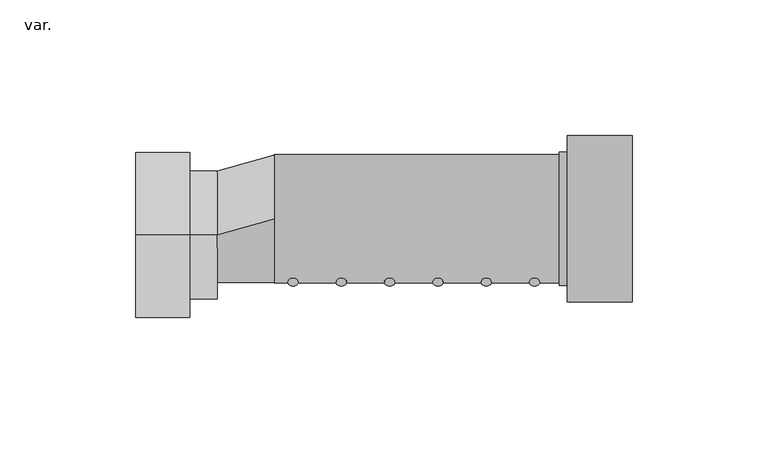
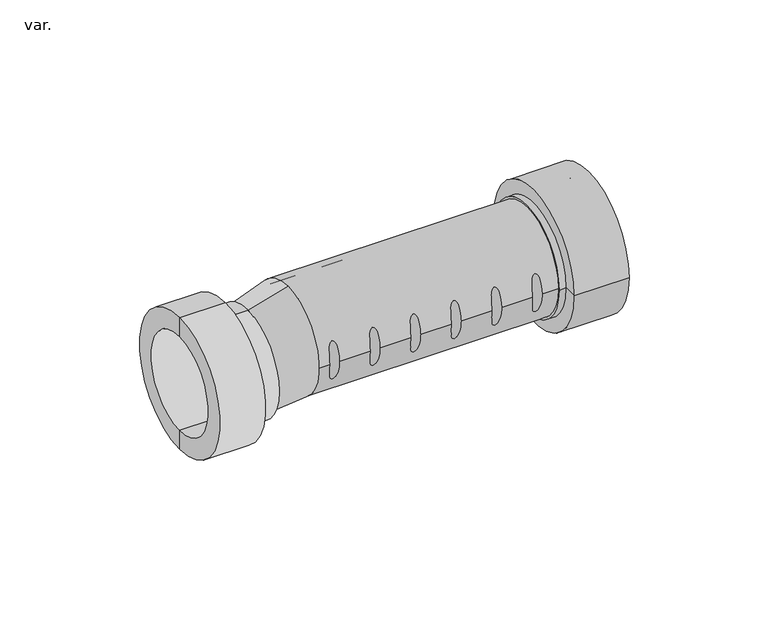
"""IFC4 building model written with IfcOpenShell, lengths in millimetres: pipe fitting geometry, AmancoWavin_Unionesdetubería_HepVoPPZNoUsarValvulaautosellantePP : var.."""

from ifc_helpers import new_model, si_unit, point, frame, origin, place, context, project, spatial, polyline, circle_curve, ellipse_curve, trimmed, source, transform, mapped, element, save
from ifc_brep_helpers import plane_surface, cylinder_surface, revolved_surface, spline_surface, advanced_brep


def var_de22d4bc(model_context):
    return source(origin(), model_context, "Body", "AdvancedBrep", [
        advanced_brep(
        [(-21.0, -6.0, 20.5), (-21.0, -6.0, -20.5), (-21.0, -6.0, -23.65), (-21.0, -6.0, 23.65), (0.0, 0.0, -23.6), (0.0, 0.0, 23.6)],
        [
            (0, 1, ellipse_curve(frame((-21.0, -6.0, 0.0), z_axis=(-1.0, 0.0, 0.0), x_axis=(0.0, 0.0, -1.0)), 20.5, 23.65)),
            (1, 2),
            (2, 3, ellipse_curve(frame((-21.0, -6.0, 0.0), z_axis=(-1.0, 0.0, 0.0), x_axis=(0.0, 0.0, 1.0)), 23.65, 17.6)),
            (3, 0),
            (4, 5, circle_curve(frame((0.0, 0.0, 0.0), z_axis=(1.0, 0.0, 0.0), x_axis=(0.0, 1.0, 0.0)), 23.6)),
            (5, 4, circle_curve(frame((0.0, 0.0, 0.0), z_axis=(1.0, 0.0, 0.0), x_axis=(0.0, 1.0, 0.0)), 23.6)),
            (2, 4),
            (5, 3),
            (0, 5),
            (4, 1),
        ],
        [
            plane_surface(frame((-21.0, -6.0, 0.0), z_axis=(-1.0, 0.0, 0.0), x_axis=(0.0, 1.0, 0.0))),
            plane_surface(frame((0.0, 0.0, 0.0), z_axis=(1.0, 0.0, 0.0), x_axis=(0.0, 1.0, 0.0))),
            spline_surface(2, 1, [[(0.0, 0.0, -23.6), (-21.0, -6.0, -23.65)], [(0.0, -23.6, -23.6), (-21.0, -23.6, -23.65)], [(0.0, -23.6, 0.0), (-21.0, -23.6, 0.0)], [(0.0, -23.6, 23.6), (-21.0, -23.6, 23.65)], [(0.0, 0.0, 23.6), (-21.0, -6.0, 23.65)]], [3, 2, 3], [2, 2], [0.0, 1.0, 2.0], [0.0, 1.0], weights=[[1.0, 1.0], [0.7071067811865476, 0.7071067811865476], [1.0, 1.0], [0.7071067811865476, 0.7071067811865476], [1.0, 1.0]]),
            spline_surface(2, 1, [[(0.0, 0.0, 23.6), (-21.0, -6.0, 20.5)], [(0.0, 23.6, 23.6), (-21.0, 17.65, 20.5)], [(0.0, 23.6, 0.0), (-21.0, 17.65, 0.0)], [(0.0, 23.6, -23.6), (-21.0, 17.65, -20.5)], [(0.0, 0.0, -23.6), (-21.0, -6.0, -20.5)]], [3, 2, 3], [2, 2], [0.0, 1.0, 2.0], [0.0, 1.0], weights=[[1.0, 1.0], [0.7071067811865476, 0.7071067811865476], [1.0, 1.0], [0.7071067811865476, 0.7071067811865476], [1.0, 1.0]]),
            plane_surface(frame((0.0, 0.0, 0.0), z_axis=(-0.27472112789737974, 0.9615239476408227, 0.0), x_axis=(0.0, 0.0, -1.0))),
        ],
        [
            (0, [[1, 2, 3, 4]]),
            (1, [[5, 6]]),
            (2, [[-3, 7, -6, 8]]),
            (3, [[-1, 9, -5, 10]]),
            (4, [[-7, -2, -10]]),
            (4, [[-8, -9, -4]]),
        ],
    ),
        advanced_brep(
        [(98.046924, -19.7409828, 8.1769828), (93.927826, -19.7409828, 8.1769828), (98.046924, -19.7409828, -8.1769828), (93.927826, -19.7409828, -8.1769828)],
        [
            (0, 1),
            (1, 0, ellipse_curve(frame((95.987375, -19.6304974, 8.0664974), z_axis=(0.0, 0.707106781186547, 0.7071067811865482), x_axis=(1.0, 0.0, 0.0)), 2.0666332, 1.8887143)),
            (2, 3, ellipse_curve(frame((95.987375, -19.6304974, -8.0664974), z_axis=(0.0, 0.707106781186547, -0.707106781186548), x_axis=(1.0, 0.0, 0.0)), 2.0666332, 1.8887143)),
            (3, 2),
            (3, 1, circle_curve(frame((93.927826, -11.564, 0.0), z_axis=(-1.0, 0.0, 0.0), x_axis=(0.0, -0.7071067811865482, 0.707106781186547)), 11.564)),
            (0, 2, circle_curve(frame((98.046924, -11.564, 0.0), z_axis=(1.0, 0.0, 0.0), x_axis=(0.0, -0.7071067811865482, 0.707106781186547)), 11.564)),
        ],
        [
            plane_surface(frame((2082.1334557, -11.564, 0.0), z_axis=(0.0, 0.707106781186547, 0.7071067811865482), x_axis=(0.0, -0.7071067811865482, 0.707106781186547))),
            plane_surface(frame((2082.1334557, -11.564, 0.0), z_axis=(0.0, 0.707106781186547, -0.7071067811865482), x_axis=(0.0, -0.7071067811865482, -0.707106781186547))),
            revolved_surface(polyline([(98.04692399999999, -19.740982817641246, 8.17698281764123), (93.9278260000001, -19.740982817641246, 8.17698281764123)]), (2082.1334557, -11.564, 0.0), (1.0, 0.0, 0.0)),
            revolved_surface(trimmed(ellipse_curve(frame((95.987375, -19.6304974, 8.0664974), z_axis=(0.0, 0.707106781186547, 0.7071067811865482), x_axis=(1.0, 0.0, 0.0)), 2.0666332, 1.8887143), [point((93.927826, -19.7409828, 8.1769828))], [point((98.046924, -19.7409828, 8.1769828))], True, "CARTESIAN"), (2082.1334557, -11.564, 0.0), (1.0, 0.0, 0.0)),
        ],
        [
            (0, [[1, 2]]),
            (1, [[3, 4]]),
            (2, [[5, -1, 6, -4]]),
            (3, [[-6, -2, -5, -3]]),
        ],
    ),
        advanced_brep(
        [(80.2452329, -19.7409828, 8.1769828), (76.1261348, -19.7409828, 8.1769828), (80.2452329, -19.7409828, -8.1769828), (76.1261348, -19.7409828, -8.1769828)],
        [
            (0, 1),
            (1, 0, ellipse_curve(frame((78.1856839, -19.6304974, 8.0664974), z_axis=(0.0, 0.707106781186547, 0.7071067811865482), x_axis=(1.0, 0.0, 0.0)), 2.0666332, 1.8887143)),
            (2, 3, ellipse_curve(frame((78.1856839, -19.6304974, -8.0664974), z_axis=(0.0, 0.707106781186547, -0.707106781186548), x_axis=(1.0, 0.0, 0.0)), 2.0666332, 1.8887143)),
            (3, 2),
            (3, 1, circle_curve(frame((76.1261348, -11.564, 0.0), z_axis=(-1.0, 0.0, 0.0), x_axis=(0.0, -0.7071067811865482, 0.707106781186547)), 11.564)),
            (0, 2, circle_curve(frame((80.2452329, -11.564, 0.0), z_axis=(1.0, 0.0, 0.0), x_axis=(0.0, -0.7071067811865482, 0.707106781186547)), 11.564)),
        ],
        [
            plane_surface(frame((2064.3317646, -11.564, 0.0), z_axis=(0.0, 0.707106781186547, 0.7071067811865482), x_axis=(0.0, -0.7071067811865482, 0.707106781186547))),
            plane_surface(frame((2064.3317646, -11.564, 0.0), z_axis=(0.0, 0.707106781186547, -0.7071067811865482), x_axis=(0.0, -0.7071067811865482, -0.707106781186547))),
            revolved_surface(polyline([(80.24523290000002, -19.740982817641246, 8.17698281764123), (76.12613480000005, -19.740982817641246, 8.17698281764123)]), (2064.3317646, -11.564, 0.0), (1.0, 0.0, 0.0)),
            revolved_surface(trimmed(ellipse_curve(frame((78.1856839, -19.6304974, 8.0664974), z_axis=(0.0, 0.707106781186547, 0.7071067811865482), x_axis=(1.0, 0.0, 0.0)), 2.0666332, 1.8887143), [point((76.1261348, -19.7409828, 8.1769828))], [point((80.2452329, -19.7409828, 8.1769828))], True, "CARTESIAN"), (2064.3317646, -11.564, 0.0), (1.0, 0.0, 0.0)),
        ],
        [
            (0, [[1, 2]]),
            (1, [[3, 4]]),
            (2, [[5, -1, 6, -4]]),
            (3, [[-6, -2, -5, -3]]),
        ],
    ),
        advanced_brep(
        [(62.4435417, -19.7409828, 8.1769828), (58.3244437, -19.7409828, 8.1769828), (62.4435417, -19.7409828, -8.1769828), (58.3244437, -19.7409828, -8.1769828)],
        [
            (0, 1),
            (1, 0, ellipse_curve(frame((60.3839927, -19.6304974, 8.0664974), z_axis=(0.0, 0.707106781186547, 0.7071067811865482), x_axis=(1.0, 0.0, 0.0)), 2.0666332, 1.8887143)),
            (2, 3, ellipse_curve(frame((60.3839927, -19.6304974, -8.0664974), z_axis=(0.0, 0.707106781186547, -0.707106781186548), x_axis=(1.0, 0.0, 0.0)), 2.0666332, 1.8887143)),
            (3, 2),
            (3, 1, circle_curve(frame((58.3244437, -11.564, 0.0), z_axis=(-1.0, 0.0, 0.0), x_axis=(0.0, -0.7071067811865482, 0.707106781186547)), 11.564)),
            (0, 2, circle_curve(frame((62.4435417, -11.564, 0.0), z_axis=(1.0, 0.0, 0.0), x_axis=(0.0, -0.7071067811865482, 0.707106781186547)), 11.564)),
        ],
        [
            plane_surface(frame((2046.5300734, -11.564, 0.0), z_axis=(0.0, 0.707106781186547, 0.7071067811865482), x_axis=(0.0, -0.7071067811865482, 0.707106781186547))),
            plane_surface(frame((2046.5300734, -11.564, 0.0), z_axis=(0.0, 0.707106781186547, -0.7071067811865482), x_axis=(0.0, -0.7071067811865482, -0.707106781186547))),
            revolved_surface(polyline([(62.44354169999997, -19.740982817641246, 8.17698281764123), (58.324443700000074, -19.740982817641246, 8.17698281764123)]), (2046.5300734, -11.564, 0.0), (1.0, 0.0, 0.0)),
            revolved_surface(trimmed(ellipse_curve(frame((60.3839927, -19.6304974, 8.0664974), z_axis=(0.0, 0.707106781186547, 0.7071067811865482), x_axis=(1.0, 0.0, 0.0)), 2.0666332, 1.8887143), [point((58.3244437, -19.7409828, 8.1769828))], [point((62.4435417, -19.7409828, 8.1769828))], True, "CARTESIAN"), (2046.5300734, -11.564, 0.0), (1.0, 0.0, 0.0)),
        ],
        [
            (0, [[1, 2]]),
            (1, [[3, 4]]),
            (2, [[5, -1, 6, -4]]),
            (3, [[-6, -2, -5, -3]]),
        ],
    ),
        advanced_brep(
        [(44.6418506, -19.7409828, 8.1769828), (40.5227525, -19.7409828, 8.1769828), (44.6418506, -19.7409828, -8.1769828), (40.5227525, -19.7409828, -8.1769828)],
        [
            (0, 1),
            (1, 0, ellipse_curve(frame((42.5823016, -19.6304974, 8.0664974), z_axis=(0.0, 0.707106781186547, 0.7071067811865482), x_axis=(1.0, 0.0, 0.0)), 2.0666332, 1.8887143)),
            (2, 3, ellipse_curve(frame((42.5823016, -19.6304974, -8.0664974), z_axis=(0.0, 0.707106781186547, -0.707106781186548), x_axis=(1.0, 0.0, 0.0)), 2.0666332, 1.8887143)),
            (3, 2),
            (3, 1, circle_curve(frame((40.5227525, -11.564, 0.0), z_axis=(-1.0, 0.0, 0.0), x_axis=(0.0, -0.7071067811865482, 0.707106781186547)), 11.564)),
            (0, 2, circle_curve(frame((44.6418506, -11.564, 0.0), z_axis=(1.0, 0.0, 0.0), x_axis=(0.0, -0.7071067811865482, 0.707106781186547)), 11.564)),
        ],
        [
            plane_surface(frame((2028.7283823, -11.564, 0.0), z_axis=(0.0, 0.707106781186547, 0.7071067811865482), x_axis=(0.0, -0.7071067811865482, 0.707106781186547))),
            plane_surface(frame((2028.7283823, -11.564, 0.0), z_axis=(0.0, 0.707106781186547, -0.7071067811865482), x_axis=(0.0, -0.7071067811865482, -0.707106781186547))),
            revolved_surface(polyline([(44.6418506, -19.740982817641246, 8.17698281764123), (40.522752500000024, -19.740982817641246, 8.17698281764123)]), (2028.7283823, -11.564, 0.0), (1.0, 0.0, 0.0)),
            revolved_surface(trimmed(ellipse_curve(frame((42.5823016, -19.6304974, 8.0664974), z_axis=(0.0, 0.707106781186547, 0.7071067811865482), x_axis=(1.0, 0.0, 0.0)), 2.0666332, 1.8887143), [point((40.5227525, -19.7409828, 8.1769828))], [point((44.6418506, -19.7409828, 8.1769828))], True, "CARTESIAN"), (2028.7283823, -11.564, 0.0), (1.0, 0.0, 0.0)),
        ],
        [
            (0, [[1, 2]]),
            (1, [[3, 4]]),
            (2, [[5, -1, 6, -4]]),
            (3, [[-6, -2, -5, -3]]),
        ],
    ),
        advanced_brep(
        [(26.8401594, -19.7409828, 8.1769828), (22.7210614, -19.7409828, 8.1769828), (26.8401594, -19.7409828, -8.1769828), (22.7210614, -19.7409828, -8.1769828)],
        [
            (0, 1),
            (1, 0, ellipse_curve(frame((24.7806104, -19.6304974, 8.0664974), z_axis=(0.0, 0.707106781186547, 0.7071067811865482), x_axis=(1.0, 0.0, 0.0)), 2.0666332, 1.8887143)),
            (2, 3, ellipse_curve(frame((24.7806104, -19.6304974, -8.0664974), z_axis=(0.0, 0.707106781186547, -0.707106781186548), x_axis=(1.0, 0.0, 0.0)), 2.0666332, 1.8887143)),
            (3, 2),
            (3, 1, circle_curve(frame((22.7210614, -11.564, 0.0), z_axis=(-1.0, 0.0, 0.0), x_axis=(0.0, -0.7071067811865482, 0.707106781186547)), 11.564)),
            (0, 2, circle_curve(frame((26.8401594, -11.564, 0.0), z_axis=(1.0, 0.0, 0.0), x_axis=(0.0, -0.7071067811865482, 0.707106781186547)), 11.564)),
        ],
        [
            plane_surface(frame((2010.9266911, -11.564, 0.0), z_axis=(0.0, 0.707106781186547, 0.7071067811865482), x_axis=(0.0, -0.7071067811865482, 0.707106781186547))),
            plane_surface(frame((2010.9266911, -11.564, 0.0), z_axis=(0.0, 0.707106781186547, -0.7071067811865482), x_axis=(0.0, -0.7071067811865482, -0.707106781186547))),
            revolved_surface(polyline([(26.840159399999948, -19.740982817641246, 8.17698281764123), (22.721061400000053, -19.740982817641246, 8.17698281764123)]), (2010.9266911, -11.564, 0.0), (1.0, 0.0, 0.0)),
            revolved_surface(trimmed(ellipse_curve(frame((24.7806104, -19.6304974, 8.0664974), z_axis=(0.0, 0.707106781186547, 0.7071067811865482), x_axis=(1.0, 0.0, 0.0)), 2.0666332, 1.8887143), [point((22.7210614, -19.7409828, 8.1769828))], [point((26.8401594, -19.7409828, 8.1769828))], True, "CARTESIAN"), (2010.9266911, -11.564, 0.0), (1.0, 0.0, 0.0)),
        ],
        [
            (0, [[1, 2]]),
            (1, [[3, 4]]),
            (2, [[5, -1, 6, -4]]),
            (3, [[-6, -2, -5, -3]]),
        ],
    ),
        advanced_brep(
        [(9.0384683, -19.7409828, 8.1769828), (4.9193702, -19.7409828, 8.1769828), (9.0384683, -19.7409828, -8.1769828), (4.9193702, -19.7409828, -8.1769828)],
        [
            (0, 1),
            (1, 0, ellipse_curve(frame((6.9789193, -19.6304974, 8.0664974), z_axis=(0.0, 0.707106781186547, 0.7071067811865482), x_axis=(1.0, 0.0, 0.0)), 2.0666332, 1.8887143)),
            (2, 3, ellipse_curve(frame((6.9789193, -19.6304974, -8.0664974), z_axis=(0.0, 0.707106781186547, -0.707106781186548), x_axis=(1.0, 0.0, 0.0)), 2.0666332, 1.8887143)),
            (3, 2),
            (3, 1, circle_curve(frame((4.9193702, -11.564, 0.0), z_axis=(-1.0, 0.0, 0.0), x_axis=(0.0, -0.7071067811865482, 0.707106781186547)), 11.564)),
            (0, 2, circle_curve(frame((9.0384683, -11.564, 0.0), z_axis=(1.0, 0.0, 0.0), x_axis=(0.0, -0.7071067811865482, 0.707106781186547)), 11.564)),
        ],
        [
            plane_surface(frame((1993.125, -11.564, 0.0), z_axis=(0.0, 0.707106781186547, 0.7071067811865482), x_axis=(0.0, -0.7071067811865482, 0.707106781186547))),
            plane_surface(frame((1993.125, -11.564, 0.0), z_axis=(0.0, 0.707106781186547, -0.7071067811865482), x_axis=(0.0, -0.7071067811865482, -0.707106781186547))),
            revolved_surface(polyline([(9.038468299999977, -19.740982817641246, 8.17698281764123), (4.919370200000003, -19.740982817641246, 8.17698281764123)]), (1993.125, -11.564, 0.0), (1.0, 0.0, 0.0)),
            revolved_surface(trimmed(ellipse_curve(frame((6.9789193, -19.6304974, 8.0664974), z_axis=(0.0, 0.707106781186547, 0.7071067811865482), x_axis=(1.0, 0.0, 0.0)), 2.0666332, 1.8887143), [point((4.9193702, -19.7409828, 8.1769828))], [point((9.0384683, -19.7409828, 8.1769828))], True, "CARTESIAN"), (1993.125, -11.564, 0.0), (1.0, 0.0, 0.0)),
        ],
        [
            (0, [[1, 2]]),
            (1, [[3, 4]]),
            (2, [[5, -1, 6, -4]]),
            (3, [[-6, -2, -5, -3]]),
        ],
    ),
        advanced_brep(
        [(-21.0, -6.0, 0.0), (-21.0, -6.0, 23.65), (-21.0, -6.0, -23.65), (-22.9, -6.0, -21.75), (-22.9, -6.0, 21.75), (-22.9, -6.0, 0.0), (-51.0, -6.0, -21.75), (-51.0, -6.0, 21.75), (-51.0, -6.0, -30.55), (-51.0, -6.0, 30.55), (-31.0, -6.0, -30.55), (-31.0, -6.0, 30.55), (-31.0, -6.0, -23.65), (-31.0, -6.0, 23.65)],
        [
            (0, 1),
            (1, 2, circle_curve(frame((-21.0, -6.0, 0.0), z_axis=(1.0, 0.0, 0.0), x_axis=(0.0, 0.0, 1.0)), 23.65)),
            (2, 0),
            (2, 1, circle_curve(frame((-21.0, -6.0, 0.0), z_axis=(1.0, 0.0, 0.0), x_axis=(0.0, 0.0, 1.0)), 23.65)),
            (3, 4, circle_curve(frame((-22.9, -6.0, 0.0), z_axis=(-1.0, 0.0, 0.0), x_axis=(0.0, 0.0, 1.0)), 21.75)),
            (4, 5),
            (5, 3),
            (4, 3, circle_curve(frame((-22.9, -6.0, 0.0), z_axis=(-1.0, 0.0, 0.0), x_axis=(0.0, 0.0, 1.0)), 21.75)),
            (6, 7, circle_curve(frame((-51.0, -6.0, 0.0), z_axis=(-1.0, 0.0, 0.0), x_axis=(0.0, 0.0, 1.0)), 21.75)),
            (7, 4),
            (3, 6),
            (7, 6, circle_curve(frame((-51.0, -6.0, 0.0), z_axis=(-1.0, 0.0, 0.0), x_axis=(0.0, 0.0, 1.0)), 21.75)),
            (8, 9, circle_curve(frame((-51.0, -6.0, 0.0), z_axis=(-1.0, 0.0, 0.0), x_axis=(0.0, 0.0, 1.0)), 30.55)),
            (9, 7),
            (6, 8),
            (9, 8, circle_curve(frame((-51.0, -6.0, 0.0), z_axis=(-1.0, 0.0, 0.0), x_axis=(0.0, 0.0, 1.0)), 30.55)),
            (10, 11, circle_curve(frame((-31.0, -6.0, 0.0), z_axis=(-1.0, 0.0, 0.0), x_axis=(0.0, 0.0, 1.0)), 30.55)),
            (11, 9),
            (8, 10),
            (11, 10, circle_curve(frame((-31.0, -6.0, 0.0), z_axis=(-1.0, 0.0, 0.0), x_axis=(0.0, 0.0, 1.0)), 30.55)),
            (12, 13, circle_curve(frame((-31.0, -6.0, 0.0), z_axis=(-1.0, 0.0, 0.0), x_axis=(0.0, 0.0, 1.0)), 23.65)),
            (13, 11),
            (10, 12),
            (13, 12, circle_curve(frame((-31.0, -6.0, 0.0), z_axis=(-1.0, 0.0, 0.0), x_axis=(0.0, 0.0, 1.0)), 23.65)),
            (1, 13),
            (12, 2),
        ],
        [
            plane_surface(frame((-21.0, -6.0, 0.0), z_axis=(1.0, 0.0, 0.0), x_axis=(0.0, 0.0, 1.0))),
            plane_surface(frame((-22.9, -6.0, 0.0), z_axis=(-1.0, 0.0, 0.0), x_axis=(0.0, 0.0, 1.0))),
            revolved_surface(polyline([(-22.90000000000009, -6.0, 21.75), (-51.0, -6.0, 21.75)]), (-1494.9727191, -6.0, 0.0), (1.0, 0.0, 0.0)),
            plane_surface(frame((-51.0, -6.0, 0.0), z_axis=(-1.0, 0.0, 0.0), x_axis=(0.0, 0.0, 1.0))),
            cylinder_surface(frame((-1494.9727191, -6.0, 0.0), z_axis=(1.0, 0.0, 0.0), x_axis=(0.0, 0.0, 1.0)), 30.55),
            plane_surface(frame((-31.0, -6.0, 0.0), z_axis=(1.0, 0.0, 0.0), x_axis=(0.0, 0.0, 1.0))),
            cylinder_surface(frame((-1494.9727191, -6.0, 0.0), z_axis=(1.0, 0.0, 0.0), x_axis=(0.0, 0.0, 1.0)), 23.65),
        ],
        [
            (0, [[1, 2, 3]]),
            (0, [[-3, 4, -1]]),
            (1, [[5, 6, 7]]),
            (1, [[8, -7, -6]]),
            (2, [[9, 10, -5, 11]]),
            (2, [[12, -11, -8, -10]]),
            (3, [[13, 14, -9, 15]]),
            (3, [[16, -15, -12, -14]]),
            (4, [[17, 18, -13, 19]]),
            (4, [[20, -19, -16, -18]]),
            (5, [[21, 22, -17, 23]]),
            (5, [[24, -23, -20, -22]]),
            (6, [[-2, 25, -21, 26]]),
            (6, [[-4, -26, -24, -25]]),
        ],
    ),
        advanced_brep(
        [(0.0, -23.6, 0.0), (0.0, 23.6, 0.0), (105.0, 23.6, 0.0), (105.0, -23.6, 0.0), (0.0, -21.4, 0.0), (0.0, 21.4, 0.0), (125.0, -23.6, 0.0), (125.0, 23.6, 0.0), (125.0, 21.4, 0.0), (125.0, -21.4, 0.0), (132.0, -23.6, 0.0), (132.0, 23.6, 0.0), (132.0, -30.7, 0.0), (132.0, 30.7, 0.0), (108.0, -30.7, 0.0), (108.0, 30.7, 0.0), (108.0, -24.6, 0.0), (108.0, 24.6, 0.0), (105.0, -24.6, 0.0), (105.0, 24.6, 0.0)],
        [
            (0, 1, circle_curve(frame((0.0, 0.0, 0.0), z_axis=(1.0, 0.0, 0.0), x_axis=(0.0, 1.0, 0.0)), 23.6)),
            (1, 2),
            (2, 3, circle_curve(frame((105.0, 0.0, 0.0), z_axis=(-1.0, 0.0, 0.0), x_axis=(0.0, 1.0, 0.0)), 23.6)),
            (3, 0),
            (1, 0, circle_curve(frame((0.0, 0.0, 0.0), z_axis=(1.0, 0.0, 0.0), x_axis=(0.0, 1.0, 0.0)), 23.6)),
            (3, 2, circle_curve(frame((105.0, 0.0, 0.0), z_axis=(-1.0, 0.0, 0.0), x_axis=(0.0, 1.0, 0.0)), 23.6)),
            (4, 5, circle_curve(frame((0.0, 0.0, 0.0), z_axis=(1.0, 0.0, 0.0), x_axis=(0.0, 1.0, 0.0)), 21.4)),
            (5, 1),
            (0, 4),
            (5, 4, circle_curve(frame((0.0, 0.0, 0.0), z_axis=(1.0, 0.0, 0.0), x_axis=(0.0, 1.0, 0.0)), 21.4)),
            (6, 7, circle_curve(frame((125.0, 0.0, 0.0), z_axis=(1.0, 0.0, 0.0), x_axis=(0.0, 1.0, 0.0)), 23.6)),
            (7, 8),
            (8, 9, circle_curve(frame((125.0, 0.0, 0.0), z_axis=(-1.0, 0.0, 0.0), x_axis=(0.0, 1.0, 0.0)), 21.4)),
            (9, 6),
            (7, 6, circle_curve(frame((125.0, 0.0, 0.0), z_axis=(1.0, 0.0, 0.0), x_axis=(0.0, 1.0, 0.0)), 23.6)),
            (9, 8, circle_curve(frame((125.0, 0.0, 0.0), z_axis=(-1.0, 0.0, 0.0), x_axis=(0.0, 1.0, 0.0)), 21.4)),
            (10, 11, circle_curve(frame((132.0, 0.0, 0.0), z_axis=(1.0, 0.0, 0.0), x_axis=(0.0, 1.0, 0.0)), 23.6)),
            (11, 7),
            (6, 10),
            (11, 10, circle_curve(frame((132.0, 0.0, 0.0), z_axis=(1.0, 0.0, 0.0), x_axis=(0.0, 1.0, 0.0)), 23.6)),
            (12, 13, circle_curve(frame((132.0, 0.0, 0.0), z_axis=(1.0, 0.0, 0.0), x_axis=(0.0, 1.0, 0.0)), 30.7)),
            (13, 11),
            (10, 12),
            (13, 12, circle_curve(frame((132.0, 0.0, 0.0), z_axis=(1.0, 0.0, 0.0), x_axis=(0.0, 1.0, 0.0)), 30.7)),
            (14, 15, circle_curve(frame((108.0, 0.0, 0.0), z_axis=(1.0, 0.0, 0.0), x_axis=(0.0, 1.0, 0.0)), 30.7)),
            (15, 13),
            (12, 14),
            (15, 14, circle_curve(frame((108.0, 0.0, 0.0), z_axis=(1.0, 0.0, 0.0), x_axis=(0.0, 1.0, 0.0)), 30.7)),
            (16, 17, circle_curve(frame((108.0, 0.0, 0.0), z_axis=(1.0, 0.0, 0.0), x_axis=(0.0, 1.0, 0.0)), 24.6)),
            (17, 15),
            (14, 16),
            (17, 16, circle_curve(frame((108.0, 0.0, 0.0), z_axis=(1.0, 0.0, 0.0), x_axis=(0.0, 1.0, 0.0)), 24.6)),
            (18, 19, circle_curve(frame((105.0, 0.0, 0.0), z_axis=(1.0, 0.0, 0.0), x_axis=(0.0, 1.0, 0.0)), 24.6)),
            (19, 17),
            (16, 18),
            (19, 18, circle_curve(frame((105.0, 0.0, 0.0), z_axis=(1.0, 0.0, 0.0), x_axis=(0.0, 1.0, 0.0)), 24.6)),
            (2, 19),
            (18, 3),
            (8, 5),
            (4, 9),
        ],
        [
            cylinder_surface(frame((0.0, 0.0, 0.0), z_axis=(-1.0, 0.0, 0.0), x_axis=(0.0, 1.0, 0.0)), 23.6),
            plane_surface(frame((0.0, 0.0, 0.0), z_axis=(-1.0, 0.0, 0.0), x_axis=(0.0, 1.0, 0.0))),
            plane_surface(frame((125.0, 0.0, 0.0), z_axis=(1.0, 0.0, 0.0), x_axis=(0.0, 1.0, 0.0))),
            revolved_surface(polyline([(125.0, 23.6, 0.0), (132.0, 23.6, 0.0)]), (0.0, 0.0, 0.0), (-1.0, 0.0, 0.0)),
            plane_surface(frame((132.0, 0.0, 0.0), z_axis=(1.0, 0.0, 0.0), x_axis=(0.0, 1.0, 0.0))),
            cylinder_surface(frame((0.0, 0.0, 0.0), z_axis=(-1.0, 0.0, 0.0), x_axis=(0.0, 1.0, 0.0)), 30.7),
            plane_surface(frame((108.0, 0.0, 0.0), z_axis=(-1.0, 0.0, 0.0), x_axis=(0.0, 1.0, 0.0))),
            cylinder_surface(frame((0.0, 0.0, 0.0), z_axis=(-1.0, 0.0, 0.0), x_axis=(0.0, 1.0, 0.0)), 24.6),
            plane_surface(frame((105.0, 0.0, 0.0), z_axis=(-1.0, 0.0, 0.0), x_axis=(0.0, 1.0, 0.0))),
            revolved_surface(polyline([(0.0, 21.4, 0.0), (125.0, 21.4, 0.0)]), (0.0, 0.0, 0.0), (-1.0, 0.0, 0.0)),
        ],
        [
            (0, [[1, 2, 3, 4]]),
            (0, [[5, -4, 6, -2]]),
            (1, [[7, 8, -1, 9]]),
            (1, [[10, -9, -5, -8]]),
            (2, [[11, 12, 13, 14]]),
            (2, [[15, -14, 16, -12]]),
            (3, [[17, 18, -11, 19]]),
            (3, [[20, -19, -15, -18]]),
            (4, [[21, 22, -17, 23]]),
            (4, [[24, -23, -20, -22]]),
            (5, [[25, 26, -21, 27]]),
            (5, [[28, -27, -24, -26]]),
            (6, [[29, 30, -25, 31]]),
            (6, [[32, -31, -28, -30]]),
            (7, [[33, 34, -29, 35]]),
            (7, [[36, -35, -32, -34]]),
            (8, [[-3, 37, -33, 38]]),
            (8, [[-6, -38, -36, -37]]),
            (9, [[-13, 39, -7, 40]]),
            (9, [[-16, -40, -10, -39]]),
        ],
    ),
    ])


if __name__ == "__main__":
    model = new_model("IFC4")
    model_context = context("Model", 3, world=origin())
    ifc_project = project(units=[si_unit("LENGTHUNIT", "METRE", prefix="MILLI")], contexts=[model_context])
    site = spatial("IfcSite", under=ifc_project)
    building = spatial("IfcBuilding", under=site)
    placement = place(None, origin())
    var_shape = var_de22d4bc(model_context)
    element("IfcPipeFitting", 1, ObjectType="AmancoWavin_Unionesdetubería_HepVoPPZNoUsarValvulaautosellantePP : var.", at=placement, inside=building, context=model_context, shape_type="MappedRepresentation", body=[
        mapped(var_shape, transform((0.0, 0.0, 0.0), x_axis=(1.0, 0.0, 0.0), y_axis=(0.0, 1.0, 0.0), z_axis=(0.0, 0.0, 1.0))),
    ])
    save(model, "model.ifc")
